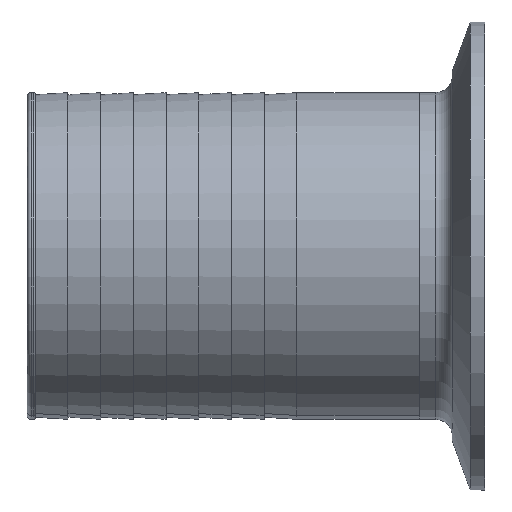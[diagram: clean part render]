
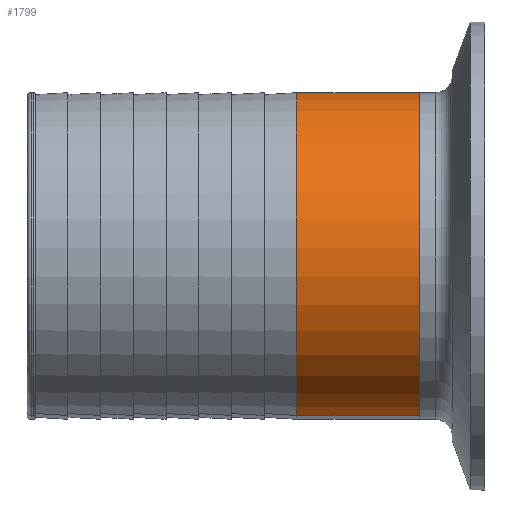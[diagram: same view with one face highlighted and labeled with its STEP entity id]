
A CAD part, left-side view. The second image highlights one B-rep face of the part: STEP entity #1799.
In plain terms, the highlighted cylindrical face has radius 31.75 mm (diameter 63.5 mm), a partial arc.
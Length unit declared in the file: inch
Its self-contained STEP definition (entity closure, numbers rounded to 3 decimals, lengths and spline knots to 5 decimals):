
#40 = DIRECTION ( 'NONE',  ( 0., 0., -1. ) ) ;
#203 = DIRECTION ( 'NONE',  ( 1., 0., 0. ) ) ;
#210 = EDGE_CURVE ( 'NONE', #634, #815, #1875, .T. ) ;
#226 = DIRECTION ( 'NONE',  ( 1., 0., 0. ) ) ;
#232 = ORIENTED_EDGE ( 'NONE', *, *, #210, .T. ) ;
#364 = VERTEX_POINT ( 'NONE', #1420 ) ;
#423 = CARTESIAN_POINT ( 'NONE',  ( -0.938, 0., -1.25 ) ) ;
#634 = VERTEX_POINT ( 'NONE', #423 ) ;
#640 = AXIS2_PLACEMENT_3D ( 'NONE', #1309, #203, #1151 ) ;
#784 = LINE ( 'NONE', #1904, #878 ) ;
#815 = VERTEX_POINT ( 'NONE', #1637 ) ;
#865 = ORIENTED_EDGE ( 'NONE', *, *, #1389, .F. ) ;
#878 = VECTOR ( 'NONE', #226, 39.37008 ) ;
#978 = DIRECTION ( 'NONE',  ( 1., 0., 0. ) ) ;
#998 = VERTEX_POINT ( 'NONE', #1839 ) ;
#1066 = VECTOR ( 'NONE', #1876, 39.37008 ) ;
#1094 = CIRCLE ( 'NONE', #1165, 1.25 ) ;
#1151 = DIRECTION ( 'NONE',  ( 0., 0., -1. ) ) ;
#1165 = AXIS2_PLACEMENT_3D ( 'NONE', #1680, #1614, #1347 ) ;
#1272 = ORIENTED_EDGE ( 'NONE', *, *, #1734, .F. ) ;
#1275 = ORIENTED_EDGE ( 'NONE', *, *, #1311, .T. ) ;
#1301 = AXIS2_PLACEMENT_3D ( 'NONE', #1899, #978, #40 ) ;
#1309 = CARTESIAN_POINT ( 'NONE',  ( 0., 0., 0. ) ) ;
#1311 = EDGE_CURVE ( 'NONE', #364, #634, #1094, .T. ) ;
#1347 = DIRECTION ( 'NONE',  ( 0., 0., -1. ) ) ;
#1389 = EDGE_CURVE ( 'NONE', #364, #998, #784, .T. ) ;
#1407 = CYLINDRICAL_SURFACE ( 'NONE', #1301, 1.25 ) ;
#1420 = CARTESIAN_POINT ( 'NONE',  ( -0.938, 0., 1.25 ) ) ;
#1520 = FACE_OUTER_BOUND ( 'NONE', #1602, .T. ) ;
#1602 = EDGE_LOOP ( 'NONE', ( #865, #1275, #232, #1272 ) ) ;
#1614 = DIRECTION ( 'NONE',  ( 1., 0., 0. ) ) ;
#1637 = CARTESIAN_POINT ( 'NONE',  ( 0., 0., -1.25 ) ) ;
#1680 = CARTESIAN_POINT ( 'NONE',  ( -0.938, 0., 0. ) ) ;
#1734 = EDGE_CURVE ( 'NONE', #998, #815, #1896, .T. ) ;
#1799 = ADVANCED_FACE ( 'NONE', ( #1520 ), #1407, .T. ) ;
#1839 = CARTESIAN_POINT ( 'NONE',  ( 0., 0., 1.25 ) ) ;
#1875 = LINE ( 'NONE', #1991, #1066 ) ;
#1876 = DIRECTION ( 'NONE',  ( 1., 0., 0. ) ) ;
#1896 = CIRCLE ( 'NONE', #640, 1.25 ) ;
#1899 = CARTESIAN_POINT ( 'NONE',  ( 0., 0., 0. ) ) ;
#1904 = CARTESIAN_POINT ( 'NONE',  ( 0., 0., 1.25 ) ) ;
#1991 = CARTESIAN_POINT ( 'NONE',  ( 0., 0., -1.25 ) ) ;
